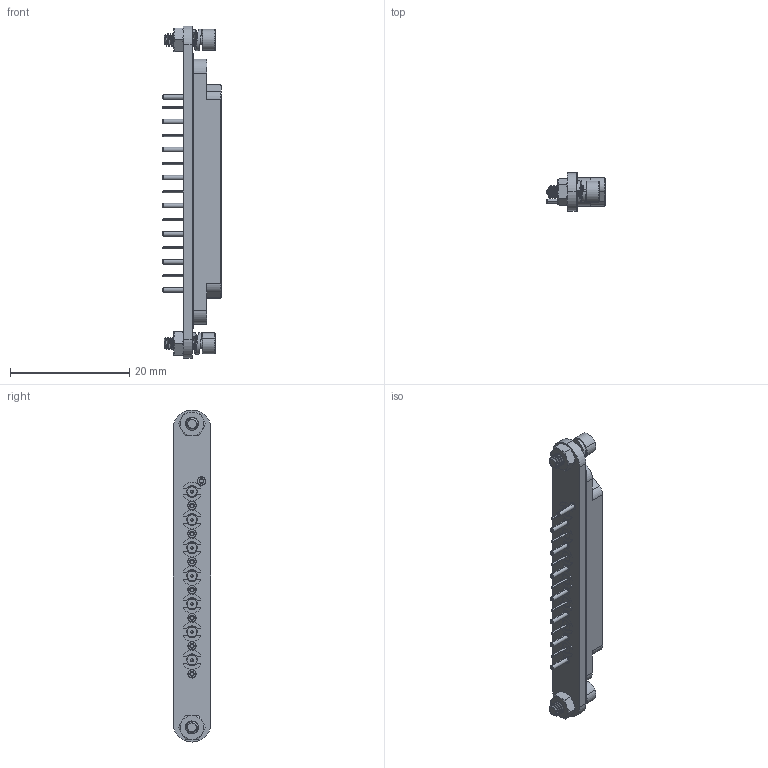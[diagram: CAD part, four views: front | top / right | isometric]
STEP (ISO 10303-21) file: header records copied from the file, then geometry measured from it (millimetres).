
FILE_DESCRIPTION (( 'STEP AP203' ), '1' );
FILE_NAME ('8869000G91P-106.STEP', '2023-11-08T20:52:19', ( '' ), ( '' ), 'SwSTEP 2.0', 'SolidWorks 2022', '' );
FILE_SCHEMA (( 'CONFIG_CONTROL_DESIGN' ));
Length unit declared in the file: inch
Products named in the file (1): 8869000G91P-106
Bounding box: 9.84 x 6.35 x 55.63 mm (x, y, z)
Volume: 1412.2 mm3; surface area: 3194.7 mm2
Topology: 37 solids, 37 shells, 3255 faces, 7828 edges, 4796 vertices
Faces by surface type: plane 1295, cone 1123, cylinder 535, bspline 260, sphere 28, torus 14
Entity records: 113885 total; most frequent: CARTESIAN_POINT 42212, ORIENTED_EDGE 15592, DIRECTION 13856, EDGE_CURVE 7796, AXIS2_PLACEMENT_3D 5458, VERTEX_POINT 4796, EDGE_LOOP 3488, FACE_OUTER_BOUND 3255
